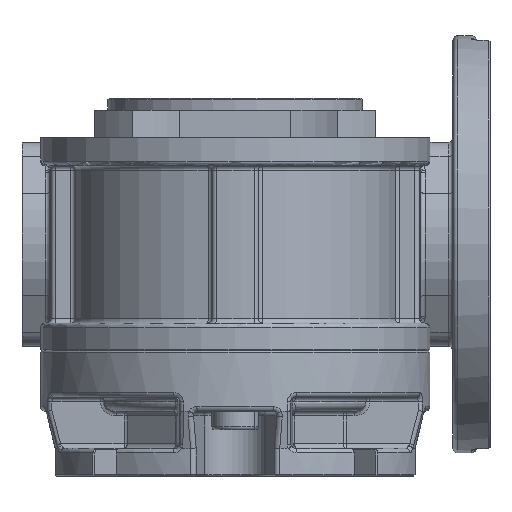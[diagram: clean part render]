
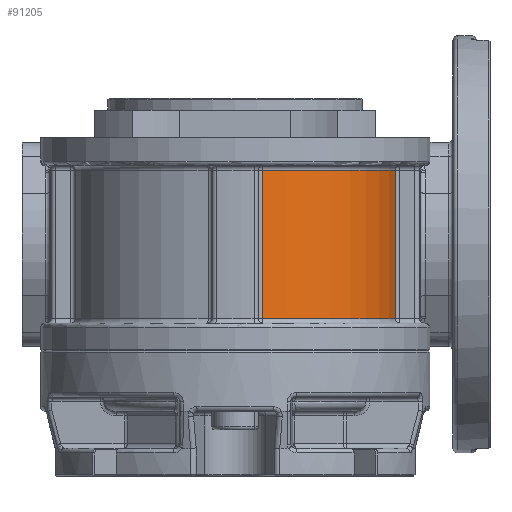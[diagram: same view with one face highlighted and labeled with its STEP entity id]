
A CAD part, front view. The second image highlights one B-rep face of the part: STEP entity #91205.
In plain terms, the highlighted cylindrical face has radius 35 mm (diameter 70 mm), a partial arc.
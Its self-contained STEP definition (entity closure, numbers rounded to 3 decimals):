
#31138 = CARTESIAN_POINT ( 'NONE',  ( 5.833, -64.51, -16. ) ) ;
#31139 = CARTESIAN_POINT ( 'NONE',  ( 5.833, -64.51, 16. ) ) ;
#31141 = DIRECTION ( 'NONE',  ( 0., 0., -1. ) ) ;
#31143 = VECTOR ( 'NONE', #31141, 1000. ) ;
#31146 = CARTESIAN_POINT ( 'NONE',  ( 5.833, -64.51, -17. ) ) ;
#31148 = DIRECTION ( 'NONE',  ( 1., 0., 0. ) ) ;
#31150 = DIRECTION ( 'NONE',  ( 0., 0., 1. ) ) ;
#31152 = CARTESIAN_POINT ( 'NONE',  ( 0., -30., -17. ) ) ;
#31153 = AXIS2_PLACEMENT_3D ( 'NONE', #31152, #31150, #31148 ) ;
#31156 = CYLINDRICAL_SURFACE ( 'NONE', #31153, 35. ) ;
#31157 = LINE ( 'NONE', #31146, #31143 ) ;
#31160 = FACE_OUTER_BOUND ( 'NONE', #91206, .T. ) ;
#31302 = LINE ( 'NONE', #31433, #31432 ) ;
#31306 = CARTESIAN_POINT ( 'NONE',  ( 34.51, -35.833, -16. ) ) ;
#31308 = DIRECTION ( 'NONE',  ( 1., 0., 0. ) ) ;
#31309 = DIRECTION ( 'NONE',  ( 0., 0., 1. ) ) ;
#31310 = CARTESIAN_POINT ( 'NONE',  ( 0., -30., -16. ) ) ;
#31311 = AXIS2_PLACEMENT_3D ( 'NONE', #31310, #31309, #31308 ) ;
#31312 = CIRCLE ( 'NONE', #31311, 35. ) ;
#31417 = DIRECTION ( 'NONE',  ( 1., 0., 0. ) ) ;
#31419 = DIRECTION ( 'NONE',  ( 0., 0., -1. ) ) ;
#31420 = CARTESIAN_POINT ( 'NONE',  ( 0., -30., 16. ) ) ;
#31421 = AXIS2_PLACEMENT_3D ( 'NONE', #31420, #31419, #31417 ) ;
#31422 = CIRCLE ( 'NONE', #31421, 35. ) ;
#31429 = CARTESIAN_POINT ( 'NONE',  ( 34.51, -35.833, 16. ) ) ;
#31431 = DIRECTION ( 'NONE',  ( 0., 0., 1. ) ) ;
#31432 = VECTOR ( 'NONE', #31431, 1000. ) ;
#31433 = CARTESIAN_POINT ( 'NONE',  ( 34.51, -35.833, -17. ) ) ;
#91205 = ADVANCED_FACE ( 'NONE', ( #31160 ), #31156, .T. ) ;
#91206 = EDGE_LOOP ( 'NONE', ( #91207, #91211, #91268, #91271 ) ) ;
#91207 = ORIENTED_EDGE ( 'NONE', *, *, #91208, .T. ) ;
#91208 = EDGE_CURVE ( 'NONE', #91209, #91210, #31157, .T. ) ;
#91209 = VERTEX_POINT ( 'NONE', #31139 ) ;
#91210 = VERTEX_POINT ( 'NONE', #31138 ) ;
#91211 = ORIENTED_EDGE ( 'NONE', *, *, #91266, .T. ) ;
#91266 = EDGE_CURVE ( 'NONE', #91210, #91267, #31312, .T. ) ;
#91267 = VERTEX_POINT ( 'NONE', #31306 ) ;
#91268 = ORIENTED_EDGE ( 'NONE', *, *, #91269, .T. ) ;
#91269 = EDGE_CURVE ( 'NONE', #91267, #91270, #31302, .T. ) ;
#91270 = VERTEX_POINT ( 'NONE', #31429 ) ;
#91271 = ORIENTED_EDGE ( 'NONE', *, *, #91272, .T. ) ;
#91272 = EDGE_CURVE ( 'NONE', #91270, #91209, #31422, .T. ) ;
